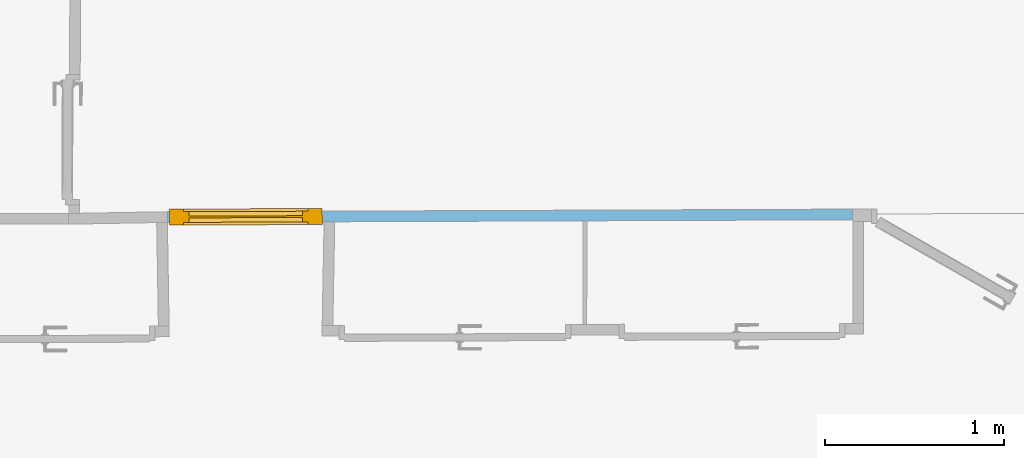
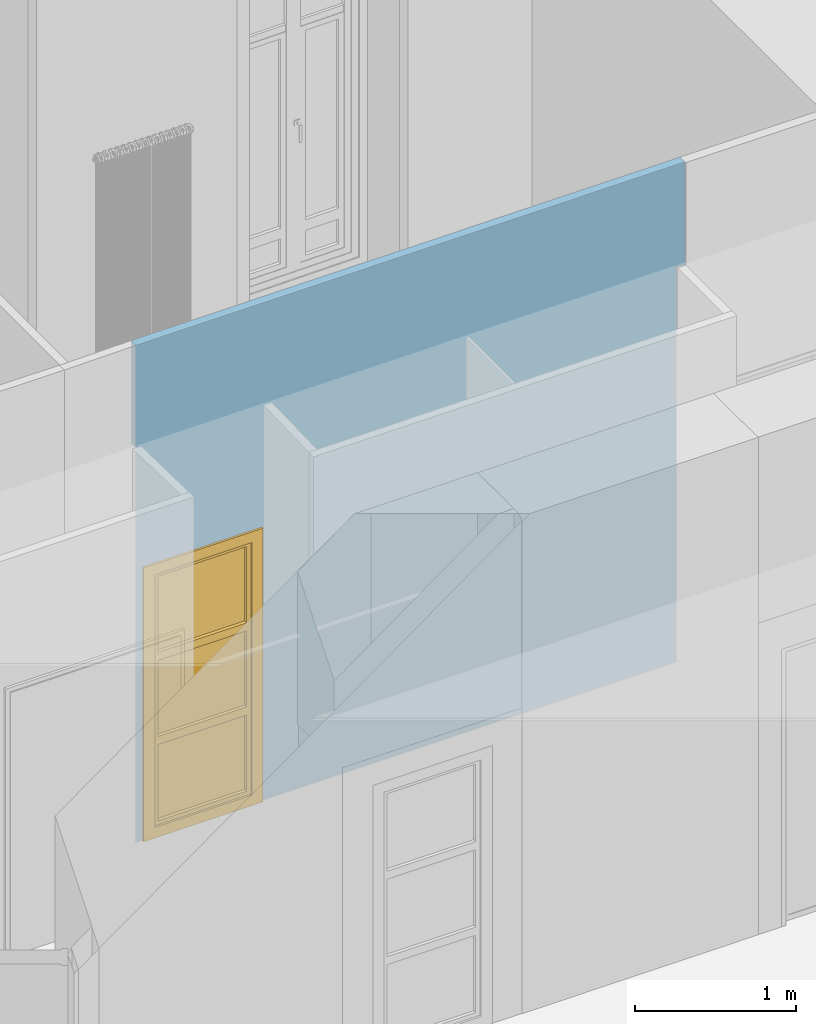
# One storey, part 35 of 66: 1 window, 1 opening, plus 1 element that does not belong to this part.
"""IFC2X3 building model written with IfcOpenShell, lengths in centimetres."""

from ifc_helpers import new_model, entity, si_unit, converted_unit, direction, frame, origin, origin_with_axes, place, context, subcontext, project, spatial, polyline, outline, extrude, clip, bounded_halfspace, faceted_brep, shape, source, transform, mapped, material, material_list, layer, layer_set, layer_usage, type_object, element, fill, save


model = new_model("IFC2X3")

# Units and contexts
model_context = context("Model", 3, precision=0.0001, world=origin(), true_north=direction((0.225632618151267, 0.974212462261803, 0.0)))
body_context = subcontext(model_context, "Body", "Model", "MODEL_VIEW")
footprint_context = subcontext(model_context, "FootPrint", "Model", "MODEL_VIEW")
profile_context = subcontext(model_context, "Profile", "Model", "MODEL_VIEW")
ifc_project = project(units=[si_unit("LENGTHUNIT", "METRE", prefix="CENTI"), si_unit("AREAUNIT", "SQUARE_METRE", prefix="CENTI"), si_unit("VOLUMEUNIT", "CUBIC_METRE", prefix="CENTI"), converted_unit("PLANEANGLEUNIT", "DEGREE", entity("IfcRatioMeasure", 0.0174532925), si_unit("PLANEANGLEUNIT", "RADIAN"), dimensions=[0, 0, 0, 0, 0, 0, 0])], contexts=[model_context])

# Site, building, storey
site_placement = place(None, origin_with_axes())
site = spatial("IfcSite", under=ifc_project, at=site_placement, Name="Default Site", CompositionType="ELEMENT")
building_placement = place(site_placement, origin_with_axes())
building = spatial("IfcBuilding", under=site, at=building_placement, Name="Default Building", CompositionType="ELEMENT")
storey_placement = place(building_placement, frame((0.0, 0.0, 477.795358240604), z_axis=(0.0, 0.0, 1.0), x_axis=(1.0, 0.0, 0.0)))
storey = spatial("IfcBuildingStorey", under=building, at=storey_placement, Name="Niveau 1", CompositionType="ELEMENT", Elevation=477.795358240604)

# Wall, opening, window
ifc_material_1 = material(Name="<aucun>")
ifc_layer = layer(ifc_material_1, 6.0)
ifc_layer_set = layer_set([ifc_layer], Name="default")
ifc_layer_usage = layer_usage(ifc_layer_set, "AXIS2", "POSITIVE", -3.0)
wall_type = type_object("IfcWallType", Name="default 60", PredefinedType="NOTDEFINED", material=ifc_layer_set)
wall_placement = place(storey_placement, frame((-261.539767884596, 186.882996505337, 0.0128503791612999), z_axis=(0.0, 0.0, 1.0), x_axis=(0.99999246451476, 0.00388212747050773, 0.0)))
wall = element("IfcWallStandardCase", 1, at=wall_placement, inside=storey, type_object=wall_type, material=ifc_layer_usage, Name="Enveloppe 104133", context=body_context, shape_type="Clipping", body=[
    clip(clip(clip(extrude(outline(polyline([(237.844056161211, 2.99999999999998), (236.731166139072, 3.0), (94.7283927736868, 2.99999999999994), (91.6607101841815, 2.99999999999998), (0.106990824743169, 2.99999999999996), (0.106990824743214, -3.00000000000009), (91.6607101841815, -3.00000000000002), (94.7283927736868, -3.00000000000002), (236.731166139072, -2.99999999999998), (237.844056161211, -3.00000000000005), (393.79852686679, -2.99999999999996), (393.79852686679, 3.0), (237.844056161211, 2.99999999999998)])), frame((0.0, 0.0, -2.66453525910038e-13), z_axis=(0.0, 0.0, 1.0), x_axis=(1.0, 0.0, 0.0)), (0.0, 0.0, 1.0), 376.102165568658), bounded_halfspace(frame((0.106990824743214, -3.00000000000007, 298.702165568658), z_axis=(0.0, 0.0, 1.0), x_axis=(0.99990809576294, 0.0135572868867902, 0.0)), True, frame((0.106990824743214, -3.00000000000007, 298.702165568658), z_axis=(0.0, 0.0, 1.0), x_axis=(1.0, 0.0, 0.0)), polyline([(0.0, -2.22044604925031e-14), (3.90215198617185, 0.0529074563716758), (0.0, -2.22044604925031e-14)]))), bounded_halfspace(frame((4.00914281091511, -2.94709254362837, 298.702165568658), z_axis=(0.0, 0.0, 1.0), x_axis=(-0.999908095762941, -0.0135572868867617, 0.0)), True, frame((4.00914281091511, -2.94709254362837, 298.702165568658), z_axis=(0.0, 0.0, 1.0), x_axis=(1.0, 0.0, 0.0)), polyline([(-3.9021519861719, -0.0529074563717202), (-3.90215198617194, 5.94709254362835), (4.44089209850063e-14, 5.94709254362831), (-4.44089209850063e-14, -2.22044604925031e-14), (-3.9021519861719, -0.0529074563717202)]))), bounded_halfspace(frame((387.798484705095, 3.0, 298.702165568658), z_axis=(0.0, 0.0, 1.0), x_axis=(1.0, 3.39875697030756e-15, 0.0)), True, frame((387.798484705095, 3.0, 298.702165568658), z_axis=(0.0, 0.0, 1.0), x_axis=(1.0, 0.0, 0.0)), polyline([(0.0, -5.99999999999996), (0.0, -2.22044604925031e-14), (6.00004216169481, 0.0), (6.00004216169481, -5.99999999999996), (0.0, -5.99999999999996)]))),
])
opening_placement = place(wall_placement, frame((4.98291634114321, 0.0, -2.66453525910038e-13), z_axis=(0.0, 0.0, 1.0), x_axis=(-1.0, -2.09034178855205e-16, 0.0)))
cartesian_point_1 = entity("IfcCartesianPoint", [0.0, 0.0, 207.0])
cartesian_point_2 = entity("IfcCartesianPoint", [-85.6824034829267, -3.0])
opening = element("IfcOpeningElement", 2, at=opening_placement, cuts=wall, Name="4294966428_11", ObjectType="Opening", shapes=[
    shape(body_context, "Body", "SweptSolid", [extrude(outline(polyline([(0.0, 207.0), (0.0, 8.88178419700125e-14), (85.6824034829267, 8.88178419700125e-14), (85.6824034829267, 207.0), (0.0, 207.0)])), frame((0.0, -13.0, 0.0), z_axis=(0.0, 1.0, 0.0), x_axis=(-1.0, 0.0, 0.0)), (0.0, 0.0, 1.0), 26.0)]),
    shape(profile_context, "Profile", "GeometricCurveSet", [entity("IfcGeometricCurveSet", [entity("IfcPolyline", [cartesian_point_1, entity("IfcCartesianPoint", [0.0, 0.0, 8.88178419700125e-14]), entity("IfcCartesianPoint", [-85.6824034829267, 0.0, 8.88178419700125e-14]), entity("IfcCartesianPoint", [-85.6824034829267, 0.0, 207.0]), cartesian_point_1])])]),
    shape(footprint_context, "FootPrint", "GeometricCurveSet", [entity("IfcGeometricCurveSet", [entity("IfcPolyline", [cartesian_point_2, entity("IfcCartesianPoint", [0.0, -2.99999999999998]), entity("IfcCartesianPoint", [0.0, 3.0]), entity("IfcCartesianPoint", [-85.6824034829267, 3.0]), cartesian_point_2])])]),
])
ifc_material_2 = material(Name="Bleu france")
ifc_material_3 = material(Name="Transparent")
ifc_material_list = material_list([ifc_material_2, ifc_material_3])
window_style = type_object("IfcWindowStyle", Name="Fn 1 montant fixe 2 vitres ép 90", ConstructionType="NOTDEFINED", OperationType="TRIPLE_PANEL_HORIZONTAL", ParameterTakesPrecedence=True, Sizeable=False, material=ifc_material_list)
shared_shape = source(origin_with_axes(), body_context, "Body", "Brep", [
    faceted_brep([(-34.841200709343, 199.000000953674, -4.50000017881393), (-34.841200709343, 199.000000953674, 4.50000017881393), (-34.841200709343, 7.99999982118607, 4.50000017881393), (-34.841200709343, 7.99999982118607, -4.50000017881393), (-42.8412020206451, 206.99999332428, 4.50000017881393), (-42.8412020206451, -8.88178419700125e-14, 4.50000017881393), (-42.8412020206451, 206.99999332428, -4.50000017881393), (-42.8412020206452, -8.88178419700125e-14, -4.50000017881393), (-42.8412020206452, -8.88178419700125e-14, 4.50000017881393), (-42.8412020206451, -8.88178419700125e-14, -4.50000017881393), (34.841200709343, 7.99999982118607, 4.50000017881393), (34.841200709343, 7.99999982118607, -4.50000017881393), (42.8412020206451, -8.88178419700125e-14, 4.50000017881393), (42.8412020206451, -8.88178419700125e-14, -4.50000017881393), (34.841200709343, 199.000000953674, 4.50000017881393), (34.841200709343, 199.000000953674, -4.50000017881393), (42.8412020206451, 206.99999332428, 4.50000017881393), (42.8412020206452, 206.99999332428, -4.50000017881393), (42.8412020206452, 206.99999332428, 4.50000017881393), (42.8412020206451, 206.99999332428, -4.50000017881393)], [[[0, 1, 2, 3]], [[1, 4, 5, 2]], [[4, 6, 7, 8]], [[6, 0, 3, 9]], [[3, 2, 10, 11]], [[2, 5, 12, 10]], [[5, 9, 13, 12]], [[9, 3, 11, 13]], [[11, 10, 14, 15]], [[10, 12, 16, 14]], [[12, 13, 17, 18]], [[13, 11, 15, 19]], [[15, 14, 1, 0]], [[14, 16, 4, 1]], [[16, 19, 6, 4]], [[19, 15, 0, 6]]]),
    faceted_brep([(-31.8412005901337, 196.000003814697, -2.99999993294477), (-31.8412005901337, 196.000003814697, 2.99999993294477), (-31.8412005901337, 138.333332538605, 2.99999993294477), (-31.8412005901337, 138.333332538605, -2.99999993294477), (-34.841200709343, 199.000000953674, 2.99999993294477), (-34.841200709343, 135.333335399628, 2.99999993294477), (-34.841200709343, 199.000000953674, -2.99999993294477), (-34.841200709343, 135.333335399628, -2.99999993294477), (31.8412005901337, 138.333332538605, 2.99999993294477), (31.8412005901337, 138.333332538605, -2.99999993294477), (34.841200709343, 135.333335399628, 2.99999993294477), (34.841200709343, 135.333335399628, -2.99999993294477), (31.8412005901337, 196.000003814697, 2.99999993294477), (31.8412005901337, 196.000003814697, -2.99999993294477), (34.841200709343, 199.000000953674, 2.99999993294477), (34.841200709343, 199.000000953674, -2.99999993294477)], [[[0, 1, 2, 3]], [[1, 4, 5, 2]], [[4, 6, 7, 5]], [[6, 0, 3, 7]], [[3, 2, 8, 9]], [[2, 5, 10, 8]], [[5, 7, 11, 10]], [[7, 3, 9, 11]], [[9, 8, 12, 13]], [[8, 10, 14, 12]], [[10, 11, 15, 14]], [[11, 9, 13, 15]], [[13, 12, 1, 0]], [[12, 14, 4, 1]], [[14, 15, 6, 4]], [[15, 13, 0, 6]]]),
    faceted_brep([(31.8412005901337, 196.000003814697, -0.499999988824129), (31.8412005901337, 138.333332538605, -0.499999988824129), (-31.8412005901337, 138.333332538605, -0.499999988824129), (-31.8412005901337, 196.000003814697, -0.499999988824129), (-31.8412005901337, 196.000003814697, 0.499999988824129), (-31.8412005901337, 138.333332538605, 0.499999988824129), (31.8412005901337, 138.333332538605, 0.499999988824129), (31.8412005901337, 196.000003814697, 0.499999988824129)], [[[0, 1, 2, 3]], [[4, 5, 6, 7]], [[3, 2, 5, 4]], [[2, 1, 6, 5]], [[1, 0, 7, 6]], [[0, 3, 4, 7]]]),
    faceted_brep([(-31.8412005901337, 132.333338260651, -2.99999993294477), (-31.8412005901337, 132.333338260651, 2.99999993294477), (-31.8412005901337, 74.6666669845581, 2.99999993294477), (-31.8412005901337, 74.6666669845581, -2.99999993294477), (-34.841200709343, 135.333335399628, 2.99999993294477), (-34.841200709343, 71.6666638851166, 2.99999993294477), (-34.841200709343, 135.333335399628, -2.99999993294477), (-34.841200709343, 71.6666638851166, -2.99999993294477), (31.8412005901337, 74.6666669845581, 2.99999993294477), (31.8412005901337, 74.6666669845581, -2.99999993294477), (34.841200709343, 71.6666638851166, 2.99999993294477), (34.841200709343, 71.6666638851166, -2.99999993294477), (31.8412005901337, 132.333338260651, 2.99999993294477), (31.8412005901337, 132.333338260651, -2.99999993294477), (34.841200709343, 135.333335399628, 2.99999993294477), (34.841200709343, 135.333335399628, -2.99999993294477)], [[[0, 1, 2, 3]], [[1, 4, 5, 2]], [[4, 6, 7, 5]], [[6, 0, 3, 7]], [[3, 2, 8, 9]], [[2, 5, 10, 8]], [[5, 7, 11, 10]], [[7, 3, 9, 11]], [[9, 8, 12, 13]], [[8, 10, 14, 12]], [[10, 11, 15, 14]], [[11, 9, 13, 15]], [[13, 12, 1, 0]], [[12, 14, 4, 1]], [[14, 15, 6, 4]], [[15, 13, 0, 6]]]),
    faceted_brep([(31.8412005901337, 132.333338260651, -0.499999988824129), (31.8412005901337, 74.6666669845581, -0.499999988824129), (-31.8412005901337, 74.6666669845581, -0.499999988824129), (-31.8412005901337, 132.333338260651, -0.499999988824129), (-31.8412005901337, 132.333338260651, 0.499999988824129), (-31.8412005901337, 74.6666669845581, 0.499999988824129), (31.8412005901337, 74.6666669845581, 0.499999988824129), (31.8412005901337, 132.333338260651, 0.499999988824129)], [[[0, 1, 2, 3]], [[4, 5, 6, 7]], [[3, 2, 5, 4]], [[2, 1, 6, 5]], [[1, 0, 7, 6]], [[0, 3, 4, 7]]]),
    faceted_brep([(-31.8412005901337, 68.6666667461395, -2.99999993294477), (-31.8412005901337, 68.6666667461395, 2.99999993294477), (-31.8412005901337, 10.9999999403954, 2.99999993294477), (-31.8412005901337, 10.9999999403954, -2.99999993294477), (-34.841200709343, 71.6666638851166, 2.99999993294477), (-34.841200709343, 7.99999982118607, 2.99999993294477), (-34.841200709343, 71.6666638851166, -2.99999993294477), (-34.841200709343, 7.99999982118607, -2.99999993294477), (31.8412005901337, 10.9999999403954, 2.99999993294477), (31.8412005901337, 10.9999999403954, -2.99999993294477), (34.841200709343, 7.99999982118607, 2.99999993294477), (34.841200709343, 7.99999982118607, -2.99999993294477), (31.8412005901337, 68.6666667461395, 2.99999993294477), (31.8412005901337, 68.6666667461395, -2.99999993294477), (34.841200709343, 71.6666638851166, 2.99999993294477), (34.841200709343, 71.6666638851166, -2.99999993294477)], [[[0, 1, 2, 3]], [[1, 4, 5, 2]], [[4, 6, 7, 5]], [[6, 0, 3, 7]], [[3, 2, 8, 9]], [[2, 5, 10, 8]], [[5, 7, 11, 10]], [[7, 3, 9, 11]], [[9, 8, 12, 13]], [[8, 10, 14, 12]], [[10, 11, 15, 14]], [[11, 9, 13, 15]], [[13, 12, 1, 0]], [[12, 14, 4, 1]], [[14, 15, 6, 4]], [[15, 13, 0, 6]]]),
    faceted_brep([(31.8412005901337, 68.6666667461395, -0.499999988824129), (31.8412005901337, 10.9999999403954, -0.499999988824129), (-31.8412005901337, 10.9999999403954, -0.499999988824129), (-31.8412005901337, 68.6666667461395, -0.499999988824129), (-31.8412005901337, 68.6666667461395, 0.499999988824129), (-31.8412005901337, 10.9999999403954, 0.499999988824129), (31.8412005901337, 10.9999999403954, 0.499999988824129), (31.8412005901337, 68.6666667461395, 0.499999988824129)], [[[0, 1, 2, 3]], [[4, 5, 6, 7]], [[3, 2, 5, 4]], [[2, 1, 6, 5]], [[1, 0, 7, 6]], [[0, 3, 4, 7]]]),
])
window_placement = place(opening_placement, frame((-85.6824034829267, -4.49999999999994, 0.0), z_axis=(0.0, 0.0, 1.0), x_axis=(1.0, 0.0, 0.0)))
window = element("IfcWindow", 3, at=window_placement, inside=storey, type_object=window_style, material=ifc_material_list, Name="Fenêtre 104770", OverallHeight=207.0, OverallWidth=85.6824034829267, context=body_context, shape_type="MappedRepresentation", body=[
    mapped(shared_shape, transform((42.8412017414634, 4.50000000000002, -1.77635683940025e-13), x_axis=(-1.0, 0.0, 0.0), y_axis=(0.0, 0.0, 1.0), z_axis=(0.0, 1.0, 0.0), scale=1.0, scale2=1.0, scale3=1.0, uniform=False)),
])
fill(opening, window)

save(model, "model.ifc")
